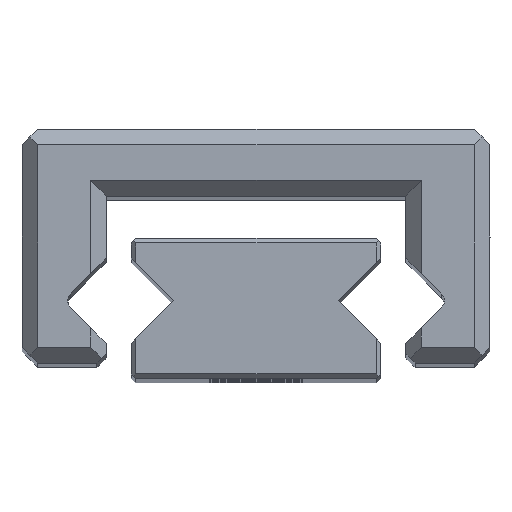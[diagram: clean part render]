
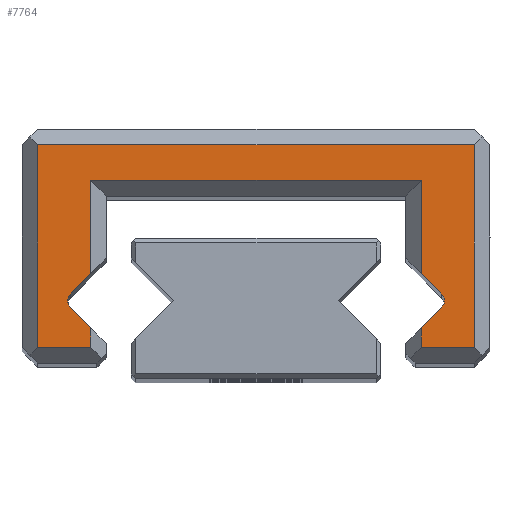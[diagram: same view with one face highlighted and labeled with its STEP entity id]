
A CAD part, top view. The second image highlights one B-rep face of the part: STEP entity #7764.
In plain terms, the highlighted planar face has unit normal (0, 0, 1).
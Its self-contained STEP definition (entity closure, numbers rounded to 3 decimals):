
#307 = VERTEX_POINT ( 'NONE', #13313 ) ;
#1206 = PLANE ( 'NONE',  #7862 ) ;
#1208 = CARTESIAN_POINT ( 'NONE',  ( -5.74, 2., 40. ) ) ;
#1212 = FACE_OUTER_BOUND ( 'NONE', #2364, .T. ) ;
#1214 = DIRECTION ( 'NONE',  ( 0., 0., 1. ) ) ;
#1215 = DIRECTION ( 'NONE',  ( 1., 0., 0. ) ) ;
#1326 = VERTEX_POINT ( 'NONE', #13355 ) ;
#1351 = VERTEX_POINT ( 'NONE', #13380 ) ;
#1359 = VERTEX_POINT ( 'NONE', #13388 ) ;
#1401 = VERTEX_POINT ( 'NONE', #13430 ) ;
#1822 = CARTESIAN_POINT ( 'NONE',  ( -5.953, 2.212, 40. ) ) ;
#1826 = LINE ( 'NONE', #1833, #8029 ) ;
#1827 = LINE ( 'NONE', #1822, #8030 ) ;
#1832 = DIRECTION ( 'NONE',  ( 0.705, 0.709, 0. ) ) ;
#1833 = CARTESIAN_POINT ( 'NONE',  ( -4.8, 0.63, 40. ) ) ;
#1834 = DIRECTION ( 'NONE',  ( -0.705, 0.709, 0. ) ) ;
#1846 = LINE ( 'NONE', #1847, #8023 ) ;
#1847 = CARTESIAN_POINT ( 'NONE',  ( 4.8, 0.63, 40. ) ) ;
#1848 = DIRECTION ( 'NONE',  ( -0.705, -0.709, 0. ) ) ;
#2319 = VERTEX_POINT ( 'NONE', #13445 ) ;
#2364 = EDGE_LOOP ( 'NONE', ( #3741, #3742, #3743, #8704, #3738, #3745, #3746, #8705, #3747, #3748, #3744, #8731, #3725, #3739, #3728, #8655, #8668 ) ) ;
#2551 = VERTEX_POINT ( 'NONE', #13479 ) ;
#2557 = VERTEX_POINT ( 'NONE', #13485 ) ;
#2558 = VERTEX_POINT ( 'NONE', #13486 ) ;
#2563 = VERTEX_POINT ( 'NONE', #13490 ) ;
#2564 = VERTEX_POINT ( 'NONE', #13491 ) ;
#3725 = ORIENTED_EDGE ( 'NONE', *, *, #13128, .T. ) ;
#3728 = ORIENTED_EDGE ( 'NONE', *, *, #13126, .T. ) ;
#3738 = ORIENTED_EDGE ( 'NONE', *, *, #13132, .T. ) ;
#3739 = ORIENTED_EDGE ( 'NONE', *, *, #13127, .T. ) ;
#3741 = ORIENTED_EDGE ( 'NONE', *, *, #6272, .T. ) ;
#3742 = ORIENTED_EDGE ( 'NONE', *, *, #13135, .T. ) ;
#3743 = ORIENTED_EDGE ( 'NONE', *, *, #13134, .T. ) ;
#3744 = ORIENTED_EDGE ( 'NONE', *, *, #11925, .T. ) ;
#3745 = ORIENTED_EDGE ( 'NONE', *, *, #13131, .T. ) ;
#3746 = ORIENTED_EDGE ( 'NONE', *, *, #13130, .T. ) ;
#3747 = ORIENTED_EDGE ( 'NONE', *, *, #6268, .T. ) ;
#3748 = ORIENTED_EDGE ( 'NONE', *, *, #12981, .T. ) ;
#5842 = LINE ( 'NONE', #5848, #9425 ) ;
#5848 = CARTESIAN_POINT ( 'NONE',  ( 5.3, 3.37, 40. ) ) ;
#5849 = DIRECTION ( 'NONE',  ( 0., -1., 0. ) ) ;
#5850 = LINE ( 'NONE', #5851, #9427 ) ;
#5851 = CARTESIAN_POINT ( 'NONE',  ( 4.8, 5.85, 40. ) ) ;
#5852 = DIRECTION ( 'NONE',  ( 1., 0., 0. ) ) ;
#5853 = LINE ( 'NONE', #5854, #9428 ) ;
#5854 = CARTESIAN_POINT ( 'NONE',  ( -5.3, 5.35, 40. ) ) ;
#5855 = DIRECTION ( 'NONE',  ( 0., 1., 0. ) ) ;
#5856 = LINE ( 'NONE', #5857, #9429 ) ;
#5857 = CARTESIAN_POINT ( 'NONE',  ( -5.3, 0.63, 40. ) ) ;
#5858 = DIRECTION ( 'NONE',  ( 0., 1., 0. ) ) ;
#5859 = LINE ( 'NONE', #5860, #9430 ) ;
#5860 = CARTESIAN_POINT ( 'NONE',  ( -5.1, 0.5, 40. ) ) ;
#5861 = DIRECTION ( 'NONE',  ( 1., 0., 0. ) ) ;
#5862 = LINE ( 'NONE', #5863, #9431 ) ;
#5863 = CARTESIAN_POINT ( 'NONE',  ( -7., 0.5, 40. ) ) ;
#5864 = DIRECTION ( 'NONE',  ( 0., -1., 0. ) ) ;
#5865 = LINE ( 'NONE', #5866, #9432 ) ;
#5866 = CARTESIAN_POINT ( 'NONE',  ( -7., 7., 40. ) ) ;
#5867 = DIRECTION ( 'NONE',  ( -1., 0., 0. ) ) ;
#5868 = LINE ( 'NONE', #5869, #9433 ) ;
#5869 = CARTESIAN_POINT ( 'NONE',  ( 7., 7., 40. ) ) ;
#5870 = DIRECTION ( 'NONE',  ( 0., 1., 0. ) ) ;
#5871 = LINE ( 'NONE', #5872, #9434 ) ;
#5872 = CARTESIAN_POINT ( 'NONE',  ( 7., 0.5, 40. ) ) ;
#5873 = DIRECTION ( 'NONE',  ( 1., 0., 0. ) ) ;
#5874 = LINE ( 'NONE', #5875, #9435 ) ;
#5875 = CARTESIAN_POINT ( 'NONE',  ( 5.3, 0.3, 40. ) ) ;
#5876 = DIRECTION ( 'NONE',  ( 0., -1., 0. ) ) ;
#6267 = EDGE_CURVE ( 'NONE', #1401, #2551, #1827, .T. ) ;
#6268 = EDGE_CURVE ( 'NONE', #2319, #2563, #1826, .T. ) ;
#6272 = EDGE_CURVE ( 'NONE', #1326, #2564, #1846, .T. ) ;
#6831 = CARTESIAN_POINT ( 'NONE',  ( -5.74, 2., 40. ) ) ;
#6832 = DIRECTION ( 'NONE',  ( 0., 0., -1. ) ) ;
#6833 = DIRECTION ( 'NONE',  ( 1., 0., 0. ) ) ;
#7394 = CIRCLE ( 'NONE', #7416, 0.3 ) ;
#7416 = AXIS2_PLACEMENT_3D ( 'NONE', #6831, #6832, #6833 ) ;
#7430 = CARTESIAN_POINT ( 'NONE',  ( 5.3, 5.85, 40. ) ) ;
#7514 = CARTESIAN_POINT ( 'NONE',  ( 5.3, 0.5, 40. ) ) ;
#7764 = ADVANCED_FACE ( 'NONE', ( #1212 ), #1206, .T. ) ;
#7862 = AXIS2_PLACEMENT_3D ( 'NONE', #1208, #1214, #1215 ) ;
#8023 = VECTOR ( 'NONE', #1848, 1000. ) ;
#8029 = VECTOR ( 'NONE', #1834, 1000. ) ;
#8030 = VECTOR ( 'NONE', #1832, 1000. ) ;
#8441 = VERTEX_POINT ( 'NONE', #12253 ) ;
#8450 = VERTEX_POINT ( 'NONE', #12262 ) ;
#8453 = VERTEX_POINT ( 'NONE', #12265 ) ;
#8469 = VERTEX_POINT ( 'NONE', #12281 ) ;
#8493 = VERTEX_POINT ( 'NONE', #7430 ) ;
#8572 = VERTEX_POINT ( 'NONE', #7514 ) ;
#8655 = ORIENTED_EDGE ( 'NONE', *, *, #12969, .T. ) ;
#8668 = ORIENTED_EDGE ( 'NONE', *, *, #12965, .T. ) ;
#8704 = ORIENTED_EDGE ( 'NONE', *, *, #13133, .T. ) ;
#8705 = ORIENTED_EDGE ( 'NONE', *, *, #13129, .T. ) ;
#8731 = ORIENTED_EDGE ( 'NONE', *, *, #6267, .T. ) ;
#9196 = CIRCLE ( 'NONE', #9198, 0.3 ) ;
#9198 = AXIS2_PLACEMENT_3D ( 'NONE', #11169, #11170, #11171 ) ;
#9200 = VECTOR ( 'NONE', #11182, 1000. ) ;
#9215 = CIRCLE ( 'NONE', #9217, 0.3 ) ;
#9217 = AXIS2_PLACEMENT_3D ( 'NONE', #11218, #11219, #11220 ) ;
#9425 = VECTOR ( 'NONE', #5849, 1000. ) ;
#9427 = VECTOR ( 'NONE', #5852, 1000. ) ;
#9428 = VECTOR ( 'NONE', #5855, 1000. ) ;
#9429 = VECTOR ( 'NONE', #5858, 1000. ) ;
#9430 = VECTOR ( 'NONE', #5861, 1000. ) ;
#9431 = VECTOR ( 'NONE', #5864, 1000. ) ;
#9432 = VECTOR ( 'NONE', #5867, 1000. ) ;
#9433 = VECTOR ( 'NONE', #5870, 1000. ) ;
#9434 = VECTOR ( 'NONE', #5873, 1000. ) ;
#9435 = VECTOR ( 'NONE', #5876, 1000. ) ;
#11169 = CARTESIAN_POINT ( 'NONE',  ( 5.74, 2., 40. ) ) ;
#11170 = DIRECTION ( 'NONE',  ( 0., 0., -1. ) ) ;
#11171 = DIRECTION ( 'NONE',  ( -1., 0., 0. ) ) ;
#11173 = LINE ( 'NONE', #11181, #9200 ) ;
#11181 = CARTESIAN_POINT ( 'NONE',  ( 5.953, 2.212, 40. ) ) ;
#11182 = DIRECTION ( 'NONE',  ( 0.705, -0.709, 0. ) ) ;
#11218 = CARTESIAN_POINT ( 'NONE',  ( -5.74, 2., 40. ) ) ;
#11219 = DIRECTION ( 'NONE',  ( 0., 0., -1. ) ) ;
#11220 = DIRECTION ( 'NONE',  ( 1., 0., 0. ) ) ;
#11925 = EDGE_CURVE ( 'NONE', #1359, #1401, #7394, .T. ) ;
#12253 = CARTESIAN_POINT ( 'NONE',  ( 7., 7., 40. ) ) ;
#12262 = CARTESIAN_POINT ( 'NONE',  ( -5.3, 5.85, 40. ) ) ;
#12265 = CARTESIAN_POINT ( 'NONE',  ( -7., 0.5, 40. ) ) ;
#12281 = CARTESIAN_POINT ( 'NONE',  ( -5.3, 0.5, 40. ) ) ;
#12965 = EDGE_CURVE ( 'NONE', #2557, #1326, #9196, .T. ) ;
#12969 = EDGE_CURVE ( 'NONE', #2558, #2557, #11173, .T. ) ;
#12981 = EDGE_CURVE ( 'NONE', #2563, #1359, #9215, .T. ) ;
#13126 = EDGE_CURVE ( 'NONE', #8493, #2558, #5842, .T. ) ;
#13127 = EDGE_CURVE ( 'NONE', #8450, #8493, #5850, .T. ) ;
#13128 = EDGE_CURVE ( 'NONE', #2551, #8450, #5853, .T. ) ;
#13129 = EDGE_CURVE ( 'NONE', #8469, #2319, #5856, .T. ) ;
#13130 = EDGE_CURVE ( 'NONE', #8453, #8469, #5859, .T. ) ;
#13131 = EDGE_CURVE ( 'NONE', #1351, #8453, #5862, .T. ) ;
#13132 = EDGE_CURVE ( 'NONE', #8441, #1351, #5865, .T. ) ;
#13133 = EDGE_CURVE ( 'NONE', #307, #8441, #5868, .T. ) ;
#13134 = EDGE_CURVE ( 'NONE', #8572, #307, #5871, .T. ) ;
#13135 = EDGE_CURVE ( 'NONE', #2564, #8572, #5874, .T. ) ;
#13313 = CARTESIAN_POINT ( 'NONE',  ( 7., 0.5, 40. ) ) ;
#13355 = CARTESIAN_POINT ( 'NONE',  ( 5.953, 1.788, 40. ) ) ;
#13380 = CARTESIAN_POINT ( 'NONE',  ( -7., 7., 40. ) ) ;
#13388 = CARTESIAN_POINT ( 'NONE',  ( -6.04, 2., 40. ) ) ;
#13430 = CARTESIAN_POINT ( 'NONE',  ( -5.953, 2.212, 40. ) ) ;
#13445 = CARTESIAN_POINT ( 'NONE',  ( -5.3, 1.132, 40. ) ) ;
#13479 = CARTESIAN_POINT ( 'NONE',  ( -5.3, 2.868, 40. ) ) ;
#13485 = CARTESIAN_POINT ( 'NONE',  ( 5.953, 2.212, 40. ) ) ;
#13486 = CARTESIAN_POINT ( 'NONE',  ( 5.3, 2.868, 40. ) ) ;
#13490 = CARTESIAN_POINT ( 'NONE',  ( -5.953, 1.788, 40. ) ) ;
#13491 = CARTESIAN_POINT ( 'NONE',  ( 5.3, 1.132, 40. ) ) ;
